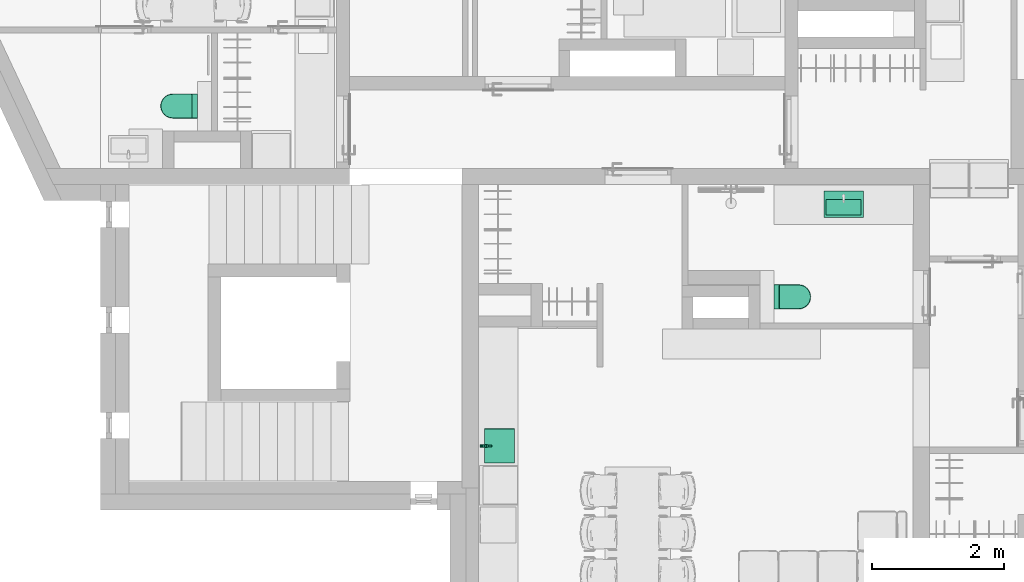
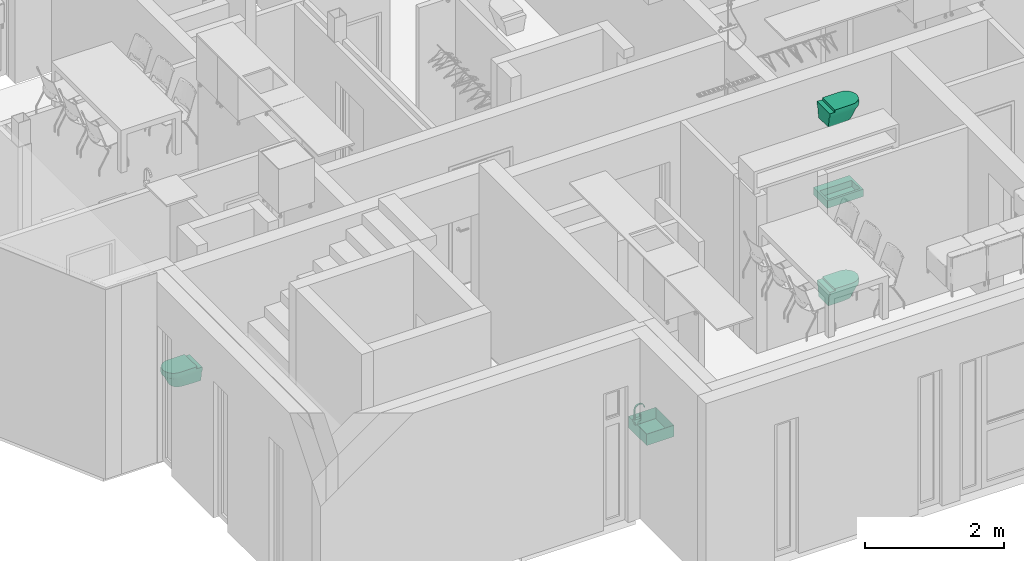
# One storey, part 18 of 68: 6 flow terminals.
"""IFC2X3 building model written with IfcOpenShell, lengths in millimetres."""

from ifc_helpers import new_model, entity, si_unit, converted_unit, direction, frame, origin, place, context, subcontext, project, spatial, faceted_brep, source, transform, mapped, material, type_object, type_shapes, element, save


model = new_model("IFC2X3")

# Units and contexts
model_context = context("Model", 3, precision=0.01, world=origin(), true_north=direction((6.123233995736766e-17, 1.0)))
plan_context = context("Plan", 3, precision=0.01, world=origin(), true_north=direction((6.123233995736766e-17, 1.0)))
body_context = subcontext(model_context, "Body", "Model", "MODEL_VIEW")
ifc_project = project(units=[si_unit("LENGTHUNIT", "METRE", prefix="MILLI"), converted_unit("PLANEANGLEUNIT", "DEGREE", entity("IfcPlaneAngleMeasure", 0.017453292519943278), si_unit("PLANEANGLEUNIT", "RADIAN"), dimensions=[0, 0, 0, 0, 0, 0, 0]), si_unit("AREAUNIT", "SQUARE_METRE")], contexts=[model_context, plan_context])

# Site, building, storey, space
site_placement = place(None, origin())
site = spatial("IfcSite", under=ifc_project, at=site_placement, Name="Default", CompositionType="ELEMENT")
building_placement = place(site_placement, origin())
building = spatial("IfcBuilding", under=site, at=building_placement, CompositionType="ELEMENT")
storey_placement = place(building_placement, frame((0.0, 0.0, 6295.0)))
storey = spatial("IfcBuildingStorey", under=building, at=storey_placement, Name="3K", CompositionType="ELEMENT", Elevation=6294.999999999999)
space_1_placement = place(storey_placement, origin())
space_1 = spatial("IfcSpace", under=storey, at=space_1_placement, Name="3-8.6", CompositionType="ELEMENT", InteriorOrExteriorSpace="INTERNAL")

# Flow terminal
ifc_material = material(Name="<Unnamed>")
distribution_element_type_1 = type_object("IfcDistributionElementType", Name="HR_Plumbing-fixtures_Toilet_Generic_v3:Default", material=ifc_material)
shared_shape_1 = source(origin(), body_context, "Body", "Brep", [
    faceted_brep([(185.0, 375.0, -3940.0), (185.0, 100.0, -3940.0), (184.31851652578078, 94.82361909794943, -3940.0), (182.32050807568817, 90.0, -3940.0), (179.14213562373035, 85.85786437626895, -3940.0), (175.0, 82.67949192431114, -3940.0), (170.17638090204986, 80.68148347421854, -3940.0), (165.0, 80.0, -3940.0), (-165.0, 80.0, -3940.0), (-170.17638090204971, 80.68148347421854, -3940.0), (-175.0, 82.67949192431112, -3940.0), (-179.14213562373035, 85.85786437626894, -3940.0), (-182.32050807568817, 90.0, -3940.0), (-184.31851652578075, 94.82361909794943, -3940.0), (-185.0, 100.0, -3940.0), (-185.0, 375.0, -3940.0), (-178.6962778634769, 422.8815233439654, -3940.0), (-160.21469970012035, 467.49999999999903, -3940.0), (-130.81475451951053, 505.81475451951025, -3940.0), (-92.4999999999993, 535.21469970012, -3940.0), (-47.8815233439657, 553.6962778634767, -3940.0), (0.0, 560.0, -3940.0), (47.88152334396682, 553.6962778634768, -3940.0), (92.50000000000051, 535.2146997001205, -3940.0), (130.81475451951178, 505.8147545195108, -3940.0), (160.2146997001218, 467.4999999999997, -3940.0), (178.69627786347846, 422.8815233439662, -3940.0), (165.0, 85.0, -3905.0), (168.88228567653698, 85.51111260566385, -3905.0), (172.4999999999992, 87.00961894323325, -3905.0), (175.60660171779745, 89.39339828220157, -3905.0), (177.99038105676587, 92.49999999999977, -3905.0), (179.48888739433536, 96.11771432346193, -3905.0), (180.0, 100.0, -3905.0), (180.0, 375.0, -3905.0), (173.86664873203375, 421.5874281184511, -3905.0), (155.88457268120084, 465.0, -3905.0), (127.27922061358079, 502.27922061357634, -3905.0), (90.0, 530.884572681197, -3905.0), (46.58742811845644, 548.8666487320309, -3905.0), (0.0, 555.0, -3905.0), (-46.58742811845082, 548.8666487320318, -3905.0), (-90.0, 530.8845726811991, -3905.0), (-127.27922061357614, 502.2792206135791, -3905.0), (-155.88457268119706, 465.0, -3905.0), (-173.8666487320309, 421.58742811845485, -3905.0), (-180.0, 375.0, -3905.0), (-180.0, 100.0, -3905.0), (-179.4888873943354, 96.11771432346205, -3905.0), (-177.99038105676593, 92.49999999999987, -3905.0), (-175.6066017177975, 89.39339828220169, -3905.0), (-172.49999999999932, 87.00961894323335, -3905.0), (-168.88228567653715, 85.51111260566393, -3905.0), (-165.0, 85.0, -3905.0)], [[[0, 1, 2, 3, 4, 5, 6, 7, 8, 9, 10, 11, 12, 13, 14, 15, 16, 17, 18, 19, 20, 21, 22, 23, 24, 25, 26]], [[27, 28, 29, 30, 31, 32, 33, 34, 35, 36, 37, 38, 39, 40, 41, 42, 43, 44, 45, 46, 47, 48, 49, 50, 51, 52, 53]], [[13, 48, 47, 14]], [[49, 12, 11, 50]], [[48, 13, 12, 49]], [[52, 51, 10, 9]], [[53, 52, 9, 8]], [[10, 51, 50, 11]], [[7, 27, 53, 8]], [[6, 28, 27, 7]], [[29, 5, 4, 30]], [[28, 6, 5, 29]], [[32, 31, 3, 2]], [[33, 32, 2, 1]], [[3, 31, 30, 4]], [[0, 34, 33, 1]], [[34, 0, 26, 35]], [[35, 26, 25, 36]], [[38, 37, 24, 23]], [[24, 37, 36, 25]], [[39, 38, 23, 22]], [[39, 22, 21, 40]], [[20, 41, 40, 21]], [[45, 44, 17, 16]], [[43, 18, 17, 44]], [[45, 16, 15, 46]], [[19, 42, 41, 20]], [[19, 18, 43, 42]], [[47, 46, 15, 14]]]),
    faceted_brep([(158.04963619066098, 466.24999999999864, -4000.0), (176.28146329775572, 422.2344757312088, -4000.0), (182.5000000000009, 375.0, -4000.0), (182.5000000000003, 0.0, -4000.0), (-182.49999999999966, 0.0, -4000.0), (-182.49999999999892, 375.0, -4000.0), (-176.2814632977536, 422.23447573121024, -4000.0), (-158.04963619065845, 466.25, -4000.0), (-129.04698756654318, 504.0469875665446, -4000.0), (-91.2499999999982, 533.0496361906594, -4000.0), (-47.23447573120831, 551.281463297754, -4000.0), (0.0, 557.4999999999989, -4000.0), (47.23447573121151, 551.2814632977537, -4000.0), (91.25000000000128, 533.0496361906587, -4000.0), (129.04698756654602, 504.0469875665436, -4000.0), (-176.28146329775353, 422.23447573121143, -3940.0), (-182.49999999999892, 375.0, -3940.0), (-182.49999999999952, 0.0, -3940.0), (182.50000000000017, 0.0, -3940.0), (182.50000000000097, 375.0, -3940.0), (176.2814632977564, 422.23447573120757, -3940.0), (158.04963619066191, 466.24999999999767, -3940.0), (129.04698756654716, 504.04698756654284, -3940.0), (91.25000000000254, 533.0496361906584, -3940.0), (47.23447573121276, 551.2814632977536, -3940.0), (0.0, 557.4999999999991, -3940.0), (-47.23447573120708, 551.2814632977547, -3940.0), (-91.24999999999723, 533.0496361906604, -3940.0), (-129.04698756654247, 504.0469875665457, -3940.0), (-158.0496361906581, 466.25000000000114, -3940.0), (184.3739186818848, 0.0, -3985.051993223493), (185.0, 0.0, -3970.0), (184.37391868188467, 0.0, -3954.9480067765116), (-184.37391868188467, 0.0, -3954.9480067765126), (-185.0, 0.0, -3970.0), (-184.37391868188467, 0.0, -3985.051993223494), (185.0, 375.0, -3970.0), (184.37391868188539, 375.0, -3954.9480067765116), (184.37391868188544, 375.0, -3985.051993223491), (179.22193525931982, 420.2391964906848, -3962.467496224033), (146.12425609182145, 487.1250848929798, -3987.162723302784), (112.36452390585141, 521.4362980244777, -3982.347722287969), (-24.092382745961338, 557.9998161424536, -3957.652277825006), (-70.79643453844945, 545.9177137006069, -3969.999999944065), (165.88140661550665, 456.6493815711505, -3963.605381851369), (170.61476036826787, 445.67094705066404, -3980.89777177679), (146.7703673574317, 487.6208651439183, -3969.999999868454), (112.4934291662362, 521.6042920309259, -3961.29138681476), (70.79643457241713, 545.9177136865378, -3969.9999999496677), (-170.6147602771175, 445.67094700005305, -3980.8977734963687), (-146.12425609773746, 487.12508488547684, -3987.1627233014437), (70.4847752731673, 545.1653000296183, -3987.16272333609), (24.092382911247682, 557.9998161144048, -3982.3477222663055), (-146.77036734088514, 487.62086516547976, -3969.999999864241), (-165.88140640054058, 456.6493822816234, -3963.605385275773), (24.120021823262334, 558.2097557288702, -3961.2913867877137), (-24.120022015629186, 558.20975569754, -3978.7086133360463), (180.8695297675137, 411.23491834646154, -3983.9362692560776), (-112.36452329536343, 521.4362985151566, -3957.652277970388), (-112.4934298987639, 521.6042914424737, -3978.708613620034), (-70.48477528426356, 545.1653000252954, -3987.1627233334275), (-184.3739188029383, 375.0, -3954.948008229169), (-179.2219343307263, 420.239200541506, -3962.4674984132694), (-185.0, 375.0, -3970.0000029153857), (-184.3739185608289, 375.0, -3985.0519946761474), (-181.40133300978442, 410.0856400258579, -3979.2616608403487)], [[[0, 1, 2, 3, 4, 5, 6, 7, 8, 9, 10, 11, 12, 13, 14]], [[15, 16, 17, 18, 19, 20, 21, 22, 23, 24, 25, 26, 27, 28, 29]], [[4, 3, 30, 31, 32, 18, 17, 33, 34, 35]], [[32, 31, 36, 37]], [[32, 37, 19, 18]], [[30, 3, 2, 38]], [[30, 38, 36, 31]], [[37, 39, 20]], [[40, 14, 41]], [[20, 19, 37]], [[26, 42, 43]], [[44, 45, 46]], [[47, 41, 48]], [[48, 24, 23]], [[7, 49, 50]], [[47, 22, 46]], [[51, 12, 52]], [[21, 46, 22]], [[53, 49, 54]], [[55, 52, 56]], [[48, 52, 55]], [[36, 57, 39]], [[28, 58, 53]], [[11, 10, 56]], [[57, 38, 2]], [[37, 36, 39]], [[59, 58, 43]], [[7, 6, 49]], [[14, 13, 41]], [[12, 51, 13]], [[45, 57, 1]], [[14, 40, 0]], [[45, 1, 0]], [[47, 46, 41]], [[39, 57, 45]], [[24, 48, 55]], [[56, 42, 55]], [[26, 43, 27]], [[39, 45, 44]], [[58, 28, 27]], [[9, 59, 60]], [[27, 43, 58]], [[28, 53, 29]], [[61, 16, 15]], [[11, 56, 52]], [[61, 62, 63]], [[47, 48, 23]], [[41, 51, 48]], [[15, 54, 62]], [[42, 25, 55]], [[62, 61, 15]], [[64, 63, 65]], [[56, 60, 43]], [[55, 25, 24]], [[50, 53, 59]], [[60, 10, 9]], [[47, 23, 22]], [[62, 49, 65]], [[7, 50, 8]], [[49, 62, 54]], [[64, 6, 5]], [[42, 26, 25]], [[58, 59, 53]], [[49, 6, 65]], [[44, 21, 20]], [[11, 52, 12]], [[42, 56, 43]], [[46, 45, 40]], [[59, 9, 8]], [[39, 44, 20]], [[44, 46, 21]], [[54, 29, 53]], [[29, 54, 15]], [[13, 51, 41]], [[48, 51, 52]], [[0, 40, 45]], [[46, 40, 41]], [[10, 60, 56]], [[43, 60, 59]], [[8, 50, 59]], [[53, 50, 49]], [[1, 57, 2]], [[36, 38, 57]], [[62, 65, 63]], [[64, 65, 6]], [[16, 61, 33]], [[16, 33, 17]], [[33, 61, 34]], [[61, 63, 34]], [[64, 5, 4]], [[64, 35, 63]], [[35, 64, 4]], [[63, 35, 34]]]),
    faceted_brep([(85.0, 522.224318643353, -4000.0), (43.99923766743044, 539.2073904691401, -4000.0), (0.0, 545.0, -4000.0), (-43.99923766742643, 539.2073904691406, -4000.0), (-85.0, 522.2243186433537, -4000.0), (-120.20815280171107, 495.2081528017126, -4000.0), (-147.22431864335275, 460.0, -4000.0), (-164.20739046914, 418.9992376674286, -4000.0), (-170.0, 375.0, -4000.0), (-170.0, 0.0, -4000.0), (170.0, 0.0, -4000.0), (170.0, 375.0, -4000.0), (164.2073904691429, 418.99923766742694, -4000.0), (147.224318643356, 460.0, -4000.0), (120.20815280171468, 495.20815280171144, -4000.0), (140.0, 0.0, -4200.0), (-140.0, 0.0, -4200.0), (-140.0, 150.0, -4200.0), (-138.62980634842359, 195.25787346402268, -4200.0), (-137.25961308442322, 240.51573412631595, -4200.0), (-133.15405183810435, 285.6078202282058, -4200.0), (-129.04849039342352, 330.69990850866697, -4200.0), (-121.54313718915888, 361.12229181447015, -4200.0), (-106.97640292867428, 388.86507440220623, -4200.0), (-86.1945818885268, 412.3164634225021, -4200.0), (-60.40505081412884, 430.11398627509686, -4200.0), (-31.106123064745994, 441.2236471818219, -4200.0), (0.0, 445.0, -4200.0), (31.106123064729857, 441.2236471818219, -4200.0), (60.40505081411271, 430.1139862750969, -4200.0), (86.19458188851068, 412.3164634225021, -4200.0), (106.97640292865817, 388.86507440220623, -4200.0), (121.54313718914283, 361.12229181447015, -4200.0), (129.04849039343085, 330.69990850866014, -4200.0), (133.15405231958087, 285.60781494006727, -4200.0), (137.25961308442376, 240.51573412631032, -4200.0), (138.629806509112, 195.25786815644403, -4200.0), (140.0, 150.0, -4200.0), (150.60660238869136, 229.54951791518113, -4129.289317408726), (160.30330119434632, 302.2747589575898, -4064.6446587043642), (155.52145288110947, 359.3375502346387, -4070.710688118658), (143.52703751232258, 346.36235827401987, -4129.289311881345), (155.38792293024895, 359.1931016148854, -4071.362825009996), (136.07910358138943, 407.7451780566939, -4100.000018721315), (144.4628484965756, 378.65444268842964, -4105.413468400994), (88.6637225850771, 465.93257853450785, -4100.000001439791), (116.08235687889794, 439.8543237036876, -4100.000003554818), (-146.76963007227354, 381.58655237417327, -4094.5865394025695), (-136.0791098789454, 407.7451788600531, -4100.000000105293), (-143.66056550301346, 346.5068047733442, -4128.637184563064), (-156.76351819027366, 360.6811785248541, -4064.644658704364), (55.573859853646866, 484.30716171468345, -4100.000000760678), (18.928354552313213, 493.79904274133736, -4099.999999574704), (-55.573860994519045, 484.3071615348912, -4100.00000022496), (-18.928355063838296, 493.79904230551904, -4100.000000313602), (-143.52703638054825, 346.36235704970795, -4129.289317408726), (-88.66372427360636, 465.9325779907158, -4100.000000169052), (-116.08235986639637, 439.8543221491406, -4100.000000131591), (-159.3933967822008, 295.45047586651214, -4070.7106881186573), (-150.6066032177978, 229.54952413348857, -4129.2893118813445)], [[[0, 1, 2, 3, 4, 5, 6, 7, 8, 9, 10, 11, 12, 13, 14]], [[15, 16, 17, 18, 19, 20, 21, 22, 23, 24, 25, 26, 27, 28, 29, 30, 31, 32, 33, 34, 35, 36, 37]], [[10, 15, 37, 38, 39, 11]], [[36, 35, 39, 38, 37]], [[39, 40, 11]], [[35, 40, 39]], [[34, 33, 41, 42, 40, 35]], [[13, 12, 43]], [[32, 44, 33]], [[32, 31, 43]], [[44, 12, 42]], [[45, 30, 29]], [[45, 46, 30]], [[22, 47, 48]], [[30, 46, 31]], [[47, 49, 50, 8]], [[28, 51, 29]], [[46, 43, 31]], [[43, 44, 32]], [[12, 11, 40, 42]], [[51, 45, 29]], [[14, 45, 0]], [[13, 43, 46]], [[28, 27, 52]], [[14, 46, 45]], [[45, 51, 0]], [[0, 51, 1]], [[1, 51, 52]], [[52, 51, 28]], [[52, 2, 1]], [[13, 46, 14]], [[53, 26, 25]], [[2, 54, 3]], [[22, 21, 55, 49]], [[24, 56, 25]], [[48, 23, 22]], [[5, 57, 6]], [[48, 57, 23]], [[24, 23, 57]], [[47, 7, 48]], [[8, 7, 47]], [[26, 54, 27]], [[3, 54, 53]], [[56, 53, 25]], [[2, 52, 54]], [[57, 56, 24]], [[4, 53, 56]], [[22, 49, 47]], [[5, 56, 57]], [[57, 48, 6]], [[4, 56, 5]], [[53, 54, 26]], [[3, 53, 4]], [[6, 48, 7]], [[12, 44, 43]], [[44, 42, 41, 33]], [[54, 52, 27]], [[20, 19, 50, 49, 55, 21]], [[50, 58, 8]], [[19, 58, 50]], [[18, 17, 59, 58, 19]], [[9, 8, 58, 59, 17, 16]], [[9, 16, 15, 10]]]),
])
type_shapes(distribution_element_type_1, [shared_shape_1])
flow_terminal_1_placement = place(space_1_placement, frame((9783.0, 4700.0, 4340.0), z_axis=(0.0, 0.0, 1.0), x_axis=(0.0, -1.0, 0.0)))
element("IfcFlowTerminal", 1, at=flow_terminal_1_placement, inside=space_1, type_object=distribution_element_type_1, material=ifc_material, Name="HR_Plumbing-fixtures_Toilet_Generic_v3:Default", ObjectType="HR_Plumbing-fixtures_Toilet_Generic_v3:Default", context=body_context, shape_type="MappedRepresentation", body=[
    mapped(shared_shape_1, transform((0.0, 0.0, 0.0), scale=1.0)),
])

# Space
space_2_placement = place(storey_placement, origin())
space_2 = spatial("IfcSpace", under=storey, at=space_2_placement, Name="3-5.4", CompositionType="ELEMENT", InteriorOrExteriorSpace="INTERNAL")

# Flow terminals
flow_terminal_2_placement = place(space_2_placement, frame((1039.9935349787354, 7595.0, 4340.0), z_axis=(0.0, 0.0, 1.0), x_axis=(0.0, 1.0, 0.0)))
element("IfcFlowTerminal", 2, at=flow_terminal_2_placement, inside=space_2, type_object=distribution_element_type_1, material=ifc_material, Name="HR_Plumbing-fixtures_Toilet_Generic_v3:Default", ObjectType="HR_Plumbing-fixtures_Toilet_Generic_v3:Default", context=body_context, shape_type="MappedRepresentation", body=[
    mapped(shared_shape_1, transform((0.0, 0.0, 0.0), scale=1.0)),
])
flow_terminal_3_placement = place(space_1_placement, frame((9783.0, 4702.0, 7475.000076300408), z_axis=(0.0, 0.0, 1.0), x_axis=(0.0, -1.0, 0.0)))
element("IfcFlowTerminal", 3, at=flow_terminal_3_placement, inside=space_1, type_object=distribution_element_type_1, material=ifc_material, Name="HR_Plumbing-fixtures_Toilet_Generic_v3:Default", ObjectType="HR_Plumbing-fixtures_Toilet_Generic_v3:Default", context=body_context, shape_type="MappedRepresentation", body=[
    mapped(shared_shape_1, transform((0.0, 0.0, 0.0), scale=1.0)),
])

# Space
space_3_placement = place(storey_placement, origin())
space_3 = spatial("IfcSpace", under=storey, at=space_3_placement, Name="3-8.2", CompositionType="ELEMENT", InteriorOrExteriorSpace="INTERNAL")

# Flow terminals
distribution_element_type_2 = type_object("IfcDistributionElementType", Name="HR_Plumbing-fixtures_Sink_Generic_Kitchen_v1:Default", material=ifc_material)
shared_shape_2 = source(origin(), body_context, "Body", "Brep", [
    faceted_brep([(260.0, -50.0, -3825.0), (260.0, -500.0, -3825.0), (-260.0, -500.0, -3825.0), (-260.0, -50.0, -3825.0), (262.0, -48.0, -3825.0), (-262.0, -48.0, -3825.0), (-262.0, -502.0, -3825.0), (262.0, -502.0, -3825.0), (262.0, -48.0, -4025.0), (262.0, -502.0, -4025.0), (-262.0, -502.0, -4025.0), (-262.0, -48.0, -4025.0), (260.0, -50.0, -4023.0), (260.0, -500.0, -4023.0), (-260.0, -500.0, -4023.0), (-260.0, -50.0, -4023.0)], [[[0, 1, 2, 3], [4, 5, 6, 7]], [[8, 9, 10, 11]], [[1, 0, 12, 13]], [[2, 1, 13, 14]], [[3, 2, 14, 15]], [[0, 3, 15, 12]], [[5, 4, 8, 11]], [[6, 5, 11, 10]], [[7, 6, 10, 9]], [[4, 7, 9, 8]], [[13, 12, 15, 14]]], outer=[[False, True], [True], [True], [True], [True], [True], [True], [True], [True], [True], [True]]),
])
type_shapes(distribution_element_type_2, [shared_shape_2])
flow_terminal_4_placement = place(space_3_placement, frame((5894.9950608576, 2440.0, 4695.0), z_axis=(0.0, 0.0, 1.0), x_axis=(0.0, -1.0, 0.0)))
element("IfcFlowTerminal", 4, at=flow_terminal_4_placement, inside=space_3, type_object=distribution_element_type_2, material=ifc_material, Name="HR_Plumbing-fixtures_Sink_Generic_Kitchen_v1:Default", ObjectType="HR_Plumbing-fixtures_Sink_Generic_Kitchen_v1:Default", context=body_context, shape_type="MappedRepresentation", body=[
    mapped(shared_shape_2, transform((0.0, 0.0, 0.0), scale=1.0)),
])
distribution_element_type_3 = type_object("IfcDistributionElementType", Name="HR_Plumbing-fixtures_Faucet_Generic_v1:Default", material=ifc_material)
shared_shape_3 = source(origin(), body_context, "Body", "Brep", [
    faceted_brep([(-21.0, 45.0, 93.0), (21.0, 45.0, 93.0), (21.0, 71.0, 93.0), (11.500000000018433, 71.0, 93.0), (11.50000000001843, 68.0, 93.0), (-11.49999999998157, 68.0, 93.0), (-11.499999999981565, 71.0, 93.0), (-21.0, 71.0, 93.0), (-21.0, 45.0, 52.0), (-21.0, 71.0, 52.0), (-11.499999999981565, 71.0, 52.0), (-11.49999999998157, 68.0, 52.0), (11.50000000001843, 68.0, 52.0), (11.500000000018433, 71.0, 52.0), (21.0, 71.0, 52.0), (21.0, 45.0, 52.0), (-11.499999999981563, 74.0, 155.0), (-11.499999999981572, 68.0, 155.0), (11.500000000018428, 68.0, 155.0), (11.500000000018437, 74.0, 155.0), (-11.499999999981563, 74.0, 47.0), (11.500000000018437, 74.0, 47.0), (11.500000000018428, 68.0, 47.0), (-11.499999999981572, 68.0, 47.0)], [[[0, 1, 2, 3, 4, 5, 6, 7]], [[8, 9, 10, 11, 12, 13, 14, 15]], [[1, 0, 8, 15]], [[2, 1, 15, 14]], [[2, 14, 13, 3]], [[0, 7, 9, 8]], [[16, 17, 18, 19]], [[20, 21, 22, 23]], [[17, 16, 20, 23, 11, 10, 6, 5]], [[18, 17, 5, 4]], [[19, 18, 4, 3, 13, 12, 22, 21]], [[16, 19, 21, 20]], [[23, 22, 12, 11]], [[9, 7, 6, 10]]]),
    faceted_brep([(15.0, -28.2999999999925, 93.0), (-15.0, -28.299999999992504, 93.0), (-15.0, -18.299999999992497, 93.0), (15.0, -18.299999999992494, 93.0), (15.0, -28.299999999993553, 262.91444034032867), (-15.0, -28.29999999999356, 262.9144403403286), (-15.0, -18.29999999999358, 262.49427421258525), (15.0, -18.299999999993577, 262.49427421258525), (15.0, -24.100059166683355, 278.21407775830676), (15.0, -19.900118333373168, 293.51371517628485), (-15.0, -19.900118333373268, 293.5137151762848), (-15.0, -24.100059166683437, 278.2140777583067), (-15.0, -0.9291565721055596, 318.9494428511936), (-15.0, -10.414637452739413, 306.2315790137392), (15.0, -10.414637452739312, 306.23157901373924), (15.0, -0.9291565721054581, 318.9494428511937), (15.0, 142.33160759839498, 262.51576689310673), (-15.0, 142.33160759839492, 262.51576689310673), (-15.0, 138.20320612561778, 277.83486312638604), (-15.0, 134.07480465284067, 293.15395935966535), (15.0, 134.07480465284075, 293.15395935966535), (15.0, 138.20320612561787, 277.83486312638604), (-15.0, 26.005040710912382, 335.7250992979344), (-15.0, 12.537942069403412, 327.337271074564), (15.0, 12.537942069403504, 327.337271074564), (15.0, 26.005040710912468, 335.7250992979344), (-15.0, 57.19996222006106, 341.5346177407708), (-15.0, 41.60250146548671, 338.6298585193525), (15.0, 41.60250146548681, 338.62985851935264), (15.0, 57.19996222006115, 341.5346177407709), (-15.0, 88.36739590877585, 335.5793923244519), (-15.0, 72.78367906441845, 338.55700503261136), (15.0, 72.78367906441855, 338.55700503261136), (15.0, 88.36739590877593, 335.5793923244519), (-15.0, 124.64885649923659, 305.9160089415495), (-15.0, 115.22290834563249, 318.67805852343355), (15.0, 115.22290834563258, 318.67805852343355), (15.0, 124.64885649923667, 305.9160089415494), (-15.0, 101.79515212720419, 327.1287254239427), (15.0, 101.79515212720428, 327.1287254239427), (-15.0, 142.3316075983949, 249.0), (-15.0, 132.33160759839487, 249.0), (-15.0, 132.3316075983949, 262.11973222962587), (-15.0, 128.64003790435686, 275.58767371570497), (-15.0, 124.94846821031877, 289.05561520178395), (-15.0, 116.61798076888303, 300.2634746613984), (-15.0, 108.28749332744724, 311.4713341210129), (-15.0, 96.45555148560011, 318.88876541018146), (-15.0, 84.623609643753, 326.30619669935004), (-15.0, 70.90577314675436, 328.9204071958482), (-15.0, 57.187936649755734, 331.53461769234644), (-15.0, 43.457269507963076, 328.98865726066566), (-15.0, 29.726602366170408, 326.4426968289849), (-15.0, 17.85792051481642, 319.08419658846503), (-15.0, 5.989238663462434, 311.72569634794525), (-15.0, -2.3968815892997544, 300.55940234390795), (-15.0, -10.783001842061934, 289.3931083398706), (-15.0, -14.541500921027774, 275.9436912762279), (15.0, -10.783001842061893, 289.3931083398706), (15.0, -14.541500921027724, 275.9436912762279), (15.0, 5.989238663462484, 311.7256963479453), (15.0, -2.396881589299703, 300.55940234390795), (15.0, 116.61798076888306, 300.2634746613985), (15.0, 108.28749332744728, 311.47133412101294), (15.0, 124.94846821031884, 289.05561520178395), (15.0, 29.726602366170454, 326.4426968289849), (15.0, 17.857920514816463, 319.08419658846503), (15.0, 57.187936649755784, 331.53461769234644), (15.0, 43.45726950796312, 328.98865726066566), (15.0, 84.62360964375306, 326.30619669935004), (15.0, 70.90577314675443, 328.9204071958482), (15.0, 127.94606568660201, 278.11949025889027), (15.0, 132.33160759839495, 262.11973222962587), (15.0, 96.45555148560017, 318.88876541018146), (15.0, 132.33160759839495, 249.0), (15.0, 142.33160759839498, 249.0)], [[[0, 1, 2, 3]], [[1, 0, 4, 5]], [[3, 2, 6, 7]], [[4, 8, 9, 10, 11, 5]], [[12, 13, 10, 9, 14, 15]], [[16, 17, 18, 19, 20, 21]], [[22, 23, 12, 15, 24, 25]], [[26, 27, 22, 25, 28, 29]], [[30, 31, 26, 29, 32, 33]], [[34, 35, 36, 37, 20, 19]], [[35, 38, 30, 33, 39, 36]], [[17, 40, 41, 42, 43, 44, 45, 46, 47, 48, 49, 50, 51, 52, 53, 54, 55, 56, 57, 6, 2, 1, 5, 11, 10, 13, 12, 23, 22, 27, 26, 31, 30, 38, 35, 34, 19, 18]], [[6, 57, 56, 58, 59, 7]], [[60, 61, 58, 56, 55, 54]], [[62, 63, 46, 45, 44, 64]], [[65, 66, 60, 54, 53, 52]], [[65, 52, 51, 50, 67, 68]], [[69, 70, 67, 50, 49, 48]], [[71, 64, 44, 43, 42, 72]], [[47, 46, 63, 73, 69, 48]], [[72, 74, 75, 16, 21, 20, 37, 36, 39, 33, 32, 29, 28, 25, 24, 15, 14, 9, 8, 4, 0, 3, 7, 59, 58, 61, 60, 66, 65, 68, 67, 70, 69, 73, 63, 62, 64, 71]], [[41, 40, 75, 74]], [[17, 16, 75, 40]], [[72, 42, 41, 74]]]),
    faceted_brep([(-21.0, -43.0, 93.0), (21.0, -43.0, 93.0), (21.0, 43.0, 93.0), (-21.0, 43.0, 93.0), (-21.0, -43.0, 52.0), (-21.0, 43.0, 52.0), (21.0, 43.0, 52.0), (21.0, -43.0, 52.0)], [[[0, 1, 2, 3]], [[4, 5, 6, 7]], [[1, 0, 4, 7]], [[2, 1, 7, 6]], [[3, 2, 6, 5]], [[0, 3, 5, 4]]]),
    faceted_brep([(21.0, -21.0, 52.0), (21.0, 21.0, 52.0), (-21.0, 21.0, 52.0), (-21.0, -21.0, 52.0), (21.0, -21.0, 7.0), (-21.0, -21.0, 7.0), (-21.0, 21.0, 7.0), (21.0, 21.0, 7.0)], [[[0, 1, 2, 3]], [[4, 5, 6, 7]], [[1, 0, 4, 7]], [[2, 1, 7, 6]], [[3, 2, 6, 5]], [[0, 3, 5, 4]]]),
    faceted_brep([(-25.0, 25.0, 7.0), (-25.0, -25.0, 7.0), (25.0, -25.0, 7.0), (25.0, 25.0, 7.0), (-25.0, 25.0, 0.0), (25.0, 25.0, 0.0), (25.0, -25.0, 0.0), (-25.0, -25.0, 0.0)], [[[0, 1, 2, 3]], [[4, 5, 6, 7]], [[1, 0, 4, 7]], [[2, 1, 7, 6]], [[3, 2, 6, 5]], [[0, 3, 5, 4]]]),
])
type_shapes(distribution_element_type_3, [shared_shape_3])
flow_terminal_5_placement = place(space_3_placement, frame((5364.995060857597, 2440.0, 900.0), z_axis=(0.0, 0.0, 1.0), x_axis=(0.0, -1.0, 0.0)))
element("IfcFlowTerminal", 5, at=flow_terminal_5_placement, inside=space_3, type_object=distribution_element_type_3, material=ifc_material, Name="HR_Plumbing-fixtures_Faucet_Generic_v1:Default", ObjectType="HR_Plumbing-fixtures_Faucet_Generic_v1:Default", context=body_context, shape_type="MappedRepresentation", body=[
    mapped(shared_shape_3, transform((0.0, 0.0, 0.0), scale=1.0)),
])
distribution_element_type_4 = type_object("IfcDistributionElementType", Name="HR_Plumbing-fixtures_Sink_Generic_Bathroom_v1:600 x 400 mm", material=ifc_material)
shared_shape_4 = source(origin(), body_context, "Body", "Brep", [
    faceted_brep([(300.0, 0.0, 0.0), (-300.0, 0.0, 0.0), (-300.0, -400.0, 0.0), (300.0, -400.0, 0.0), (-265.0, -125.0, 0.0), (265.0, -125.0, 0.0), (265.0, -365.0, 0.0), (-265.0, -365.0, 0.0), (300.0, 0.0, -130.0), (300.0, -400.0, -130.0), (-300.0, -400.0, -130.0), (-300.0, 0.0, -130.0), (265.0, -125.0, -110.0), (-265.0, -125.0, -110.0), (-265.0, -365.0, -110.0), (265.0, -365.0, -110.0)], [[[0, 1, 2, 3], [4, 5, 6, 7]], [[8, 9, 10, 11]], [[1, 0, 8, 11]], [[2, 1, 11, 10]], [[3, 2, 10, 9]], [[0, 3, 9, 8]], [[12, 13, 14, 15]], [[13, 12, 5, 4]], [[14, 13, 4, 7]], [[15, 14, 7, 6]], [[12, 15, 6, 5]]]),
])
type_shapes(distribution_element_type_4, [shared_shape_4])
flow_terminal_6_placement = place(space_1_placement, frame((10841.496767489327, 6305.000000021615, 900.0)))
element("IfcFlowTerminal", 6, at=flow_terminal_6_placement, inside=space_1, type_object=distribution_element_type_4, material=ifc_material, Name="HR_Plumbing-fixtures_Sink_Generic_Bathroom_v1:600 x 400 mm", ObjectType="HR_Plumbing-fixtures_Sink_Generic_Bathroom_v1:600 x 400 mm", context=body_context, shape_type="MappedRepresentation", body=[
    mapped(shared_shape_4, transform((0.0, 0.0, 0.0), scale=1.0)),
])

save(model, "model.ifc")
